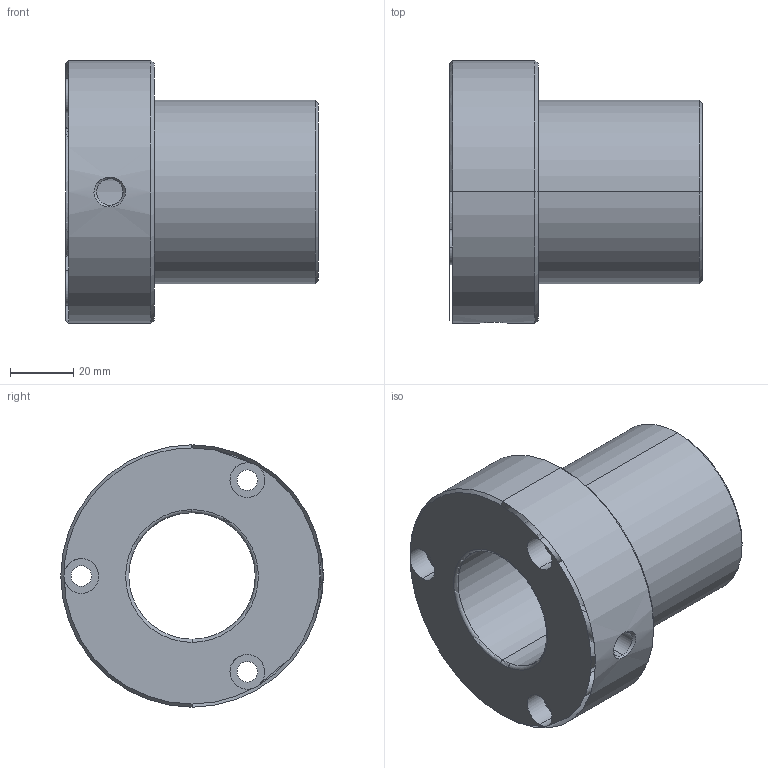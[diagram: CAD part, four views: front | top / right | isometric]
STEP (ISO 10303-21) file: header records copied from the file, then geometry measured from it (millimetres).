
FILE_DESCRIPTION(('CATIA V5 STEP Exchange'),'2;1');
FILE_NAME('C:\Users\Utente\Desktop\IO LAVORO\3D X SITO CF\X SITO\3D files 346\346-40.stp','2020-12-25T21:25:25+00:00',('none'),('none'),'CATIA Version 5 Release 20 GA (IN-10)','CATIA V5 STEP AP203','none');
FILE_SCHEMA(('CONFIG_CONTROL_DESIGN'));
Length unit declared in the file: millimetre
Products named in the file (1): 346-40
Bounding box: 80 x 83 x 83 mm (x, y, z)
Volume: 180771.6 mm3; surface area: 36991.1 mm2
Topology: 1 solids, 1 shells, 39 faces, 153 edges, 118 vertices
Faces by surface type: cylinder 22, cone 8, plane 7, torus 2
Entity records: 2018 total; most frequent: CARTESIAN_POINT 728, ORIENTED_EDGE 298, DIRECTION 195, EDGE_CURVE 149, AXIS2_PLACEMENT_3D 127, VERTEX_POINT 114, CIRCLE 87, EDGE_LOOP 51
